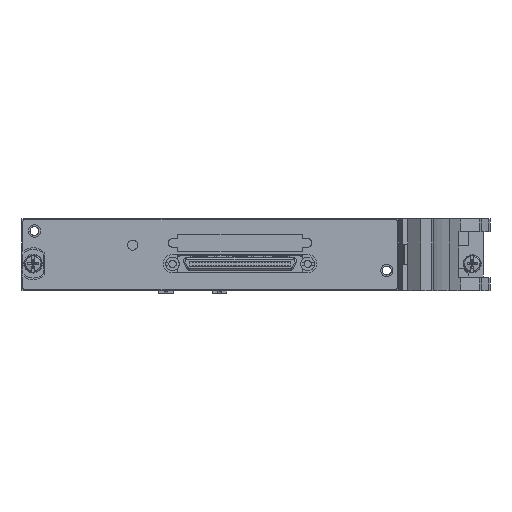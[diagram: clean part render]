
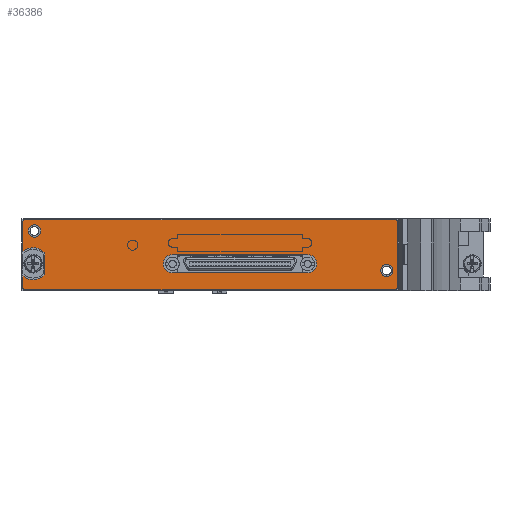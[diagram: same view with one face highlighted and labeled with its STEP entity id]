
A CAD part, left-side view. The second image highlights one B-rep face of the part: STEP entity #36386.
In plain terms, the highlighted planar face has unit normal (-1, 0, 0).
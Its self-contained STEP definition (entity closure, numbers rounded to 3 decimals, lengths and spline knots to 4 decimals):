
#5511=CARTESIAN_POINT('',(-0.215,0.5347,0.665));
#5512=DIRECTION('',(-1.,0.,0.));
#5513=DIRECTION('',(0.,0.,1.));
#5514=AXIS2_PLACEMENT_3D('',#5511,#5512,#5513);
#5516=DIRECTION('',(0.,1.,0.));
#5517=VECTOR('',#5516,4.07);
#5518=CARTESIAN_POINT('',(-0.215,-3.5354,0.685));
#5519=LINE('',#5518,#5517);
#5520=CARTESIAN_POINT('',(-0.215,-3.5354,0.665));
#5521=DIRECTION('',(-1.,0.,0.));
#5522=DIRECTION('',(0.,-1.,0.));
#5523=AXIS2_PLACEMENT_3D('',#5520,#5521,#5522);
#5525=DIRECTION('',(0.,0.,1.));
#5526=VECTOR('',#5525,0.728);
#5527=CARTESIAN_POINT('',(-0.215,-3.5554,-0.063));
#5528=LINE('',#5527,#5526);
#5529=CARTESIAN_POINT('',(-0.215,-3.5354,-0.063));
#5530=DIRECTION('',(-1.,0.,0.));
#5531=DIRECTION('',(0.,0.,-1.));
#5532=AXIS2_PLACEMENT_3D('',#5529,#5530,#5531);
#5534=DIRECTION('',(0.,-1.,0.));
#5535=VECTOR('',#5534,4.07);
#5536=CARTESIAN_POINT('',(-0.215,0.5347,-0.083));
#5537=LINE('',#5536,#5535);
#5538=CARTESIAN_POINT('',(-0.215,0.5347,-0.063));
#5539=DIRECTION('',(-1.,0.,0.));
#5540=DIRECTION('',(0.,1.,0.));
#5541=AXIS2_PLACEMENT_3D('',#5538,#5539,#5540);
#5543=DIRECTION('',(0.,0.,-1.));
#5544=VECTOR('',#5543,0.1295);
#5545=CARTESIAN_POINT('',(-0.215,0.5547,0.0665));
#5546=LINE('',#5545,#5544);
#5547=CARTESIAN_POINT('',(-0.215,0.4427,0.201));
#5548=DIRECTION('',(1.,0.,0.));
#5549=DIRECTION('',(0.,-0.737,-0.676));
#5550=AXIS2_PLACEMENT_3D('',#5547,#5548,#5549);
#5552=DIRECTION('',(0.,0.,-1.));
#5553=VECTOR('',#5552,0.2365);
#5554=CARTESIAN_POINT('',(-0.215,0.3137,0.3193));
#5555=LINE('',#5554,#5553);
#5556=CARTESIAN_POINT('',(-0.215,0.4427,0.201));
#5557=DIRECTION('',(1.,0.,0.));
#5558=DIRECTION('',(0.,0.64,0.768));
#5559=AXIS2_PLACEMENT_3D('',#5556,#5557,#5558);
#5561=DIRECTION('',(0.,0.,-1.));
#5562=VECTOR('',#5561,0.3295);
#5563=CARTESIAN_POINT('',(-0.215,0.5547,0.665));
#5564=LINE('',#5563,#5562);
#5565=CARTESIAN_POINT('',(-0.215,0.4284,0.56));
#5566=DIRECTION('',(-1.,0.,0.));
#5567=DIRECTION('',(0.,0.,1.));
#5568=AXIS2_PLACEMENT_3D('',#5565,#5566,#5567);
#5570=CARTESIAN_POINT('',(-0.215,0.4284,0.56));
#5571=DIRECTION('',(-1.,0.,0.));
#5572=DIRECTION('',(0.,0.,-1.));
#5573=AXIS2_PLACEMENT_3D('',#5570,#5571,#5572);
#5575=CARTESIAN_POINT('',(-0.215,-3.4406,0.126));
#5576=DIRECTION('',(-1.,0.,0.));
#5577=DIRECTION('',(0.,0.,1.));
#5578=AXIS2_PLACEMENT_3D('',#5575,#5576,#5577);
#5580=CARTESIAN_POINT('',(-0.215,-3.4406,0.126));
#5581=DIRECTION('',(-1.,0.,0.));
#5582=DIRECTION('',(0.,0.,-1.));
#5583=AXIS2_PLACEMENT_3D('',#5580,#5581,#5582);
#5585=CARTESIAN_POINT('',(-0.215,-1.0874,0.1998));
#5586=DIRECTION('',(-1.,0.,0.));
#5587=DIRECTION('',(0.,0.,1.));
#5588=AXIS2_PLACEMENT_3D('',#5585,#5586,#5587);
#5590=DIRECTION('',(0.,-1.,0.));
#5591=VECTOR('',#5590,1.484);
#5592=CARTESIAN_POINT('',(-0.215,-1.0874,0.0998));
#5593=LINE('',#5592,#5591);
#5594=CARTESIAN_POINT('',(-0.215,-2.5714,0.1998));
#5595=DIRECTION('',(-1.,0.,0.));
#5596=DIRECTION('',(0.,0.,-1.));
#5597=AXIS2_PLACEMENT_3D('',#5594,#5595,#5596);
#5599=DIRECTION('',(0.,1.,0.));
#5600=VECTOR('',#5599,1.484);
#5601=CARTESIAN_POINT('',(-0.215,-2.5714,0.2998));
#5602=LINE('',#5601,#5600);
#25580=CARTESIAN_POINT('',(-0.215,0.5347,0.685));
#25581=CARTESIAN_POINT('',(-0.215,0.5547,0.665));
#25582=VERTEX_POINT('',#25580);
#25583=VERTEX_POINT('',#25581);
#25584=CARTESIAN_POINT('',(-0.215,0.5547,0.3355));
#25585=VERTEX_POINT('',#25584);
#25586=CARTESIAN_POINT('',(-0.215,0.3137,0.3193));
#25587=VERTEX_POINT('',#25586);
#25588=CARTESIAN_POINT('',(-0.215,0.3137,0.0827));
#25589=VERTEX_POINT('',#25588);
#25590=CARTESIAN_POINT('',(-0.215,0.5547,0.0665));
#25591=VERTEX_POINT('',#25590);
#25592=CARTESIAN_POINT('',(-0.215,0.5547,-0.063));
#25593=VERTEX_POINT('',#25592);
#25594=CARTESIAN_POINT('',(-0.215,0.5347,-0.083));
#25595=VERTEX_POINT('',#25594);
#25596=CARTESIAN_POINT('',(-0.215,-3.5354,-0.083));
#25597=VERTEX_POINT('',#25596);
#25598=CARTESIAN_POINT('',(-0.215,-3.5554,-0.063));
#25599=VERTEX_POINT('',#25598);
#25600=CARTESIAN_POINT('',(-0.215,-3.5554,0.665));
#25601=VERTEX_POINT('',#25600);
#25602=CARTESIAN_POINT('',(-0.215,-3.5354,0.685));
#25603=VERTEX_POINT('',#25602);
#25604=CARTESIAN_POINT('',(-0.215,0.4284,0.6275));
#25605=CARTESIAN_POINT('',(-0.215,0.4284,0.4925));
#25606=VERTEX_POINT('',#25604);
#25607=VERTEX_POINT('',#25605);
#25608=CARTESIAN_POINT('',(-0.215,-3.4406,0.1935));
#25609=CARTESIAN_POINT('',(-0.215,-3.4406,0.0585));
#25610=VERTEX_POINT('',#25608);
#25611=VERTEX_POINT('',#25609);
#25612=CARTESIAN_POINT('',(-0.215,-1.0874,0.2998));
#25613=CARTESIAN_POINT('',(-0.215,-1.0874,0.0998));
#25614=VERTEX_POINT('',#25612);
#25615=VERTEX_POINT('',#25613);
#25616=CARTESIAN_POINT('',(-0.215,-2.5714,0.0998));
#25617=VERTEX_POINT('',#25616);
#25618=CARTESIAN_POINT('',(-0.215,-2.5714,0.2998));
#25619=VERTEX_POINT('',#25618);
#36345=CARTESIAN_POINT('',(-0.215,0.4427,0.201));
#36346=DIRECTION('',(-1.,0.,0.));
#36347=DIRECTION('',(0.,0.,1.));
#36348=AXIS2_PLACEMENT_3D('',#36345,#36346,#36347);
#36349=PLANE('',#36348);
#36350=ORIENTED_EDGE('',*,*,#36185,.F.);
#36351=ORIENTED_EDGE('',*,*,#36200,.F.);
#36352=ORIENTED_EDGE('',*,*,#36214,.F.);
#36353=ORIENTED_EDGE('',*,*,#36228,.F.);
#36354=ORIENTED_EDGE('',*,*,#36242,.F.);
#36355=ORIENTED_EDGE('',*,*,#36256,.F.);
#36356=ORIENTED_EDGE('',*,*,#36270,.F.);
#36357=ORIENTED_EDGE('',*,*,#36284,.F.);
#36358=ORIENTED_EDGE('',*,*,#36298,.F.);
#36359=ORIENTED_EDGE('',*,*,#36312,.F.);
#36360=ORIENTED_EDGE('',*,*,#36326,.F.);
#36361=ORIENTED_EDGE('',*,*,#36339,.F.);
#36362=EDGE_LOOP('',(#36350,#36351,#36352,#36353,#36354,#36355,#36356,#36357,
#36358,#36359,#36360,#36361));
#36363=FACE_OUTER_BOUND('',#36362,.F.);
#36365=ORIENTED_EDGE('',*,*,#36364,.T.);
#36367=ORIENTED_EDGE('',*,*,#36366,.T.);
#36368=EDGE_LOOP('',(#36365,#36367));
#36369=FACE_BOUND('',#36368,.F.);
#36371=ORIENTED_EDGE('',*,*,#36370,.T.);
#36373=ORIENTED_EDGE('',*,*,#36372,.T.);
#36374=EDGE_LOOP('',(#36371,#36373));
#36375=FACE_BOUND('',#36374,.F.);
#36377=ORIENTED_EDGE('',*,*,#36376,.T.);
#36379=ORIENTED_EDGE('',*,*,#36378,.T.);
#36381=ORIENTED_EDGE('',*,*,#36380,.T.);
#36383=ORIENTED_EDGE('',*,*,#36382,.T.);
#36384=EDGE_LOOP('',(#36377,#36379,#36381,#36383));
#36385=FACE_BOUND('',#36384,.F.);
#36386=ADVANCED_FACE('',(#36363,#36369,#36375,#36385),#36349,.T.);
#5515=CIRCLE('',#5514,0.02);
#5524=CIRCLE('',#5523,0.02);
#5533=CIRCLE('',#5532,0.02);
#5542=CIRCLE('',#5541,0.02);
#5551=CIRCLE('',#5550,0.175);
#5560=CIRCLE('',#5559,0.175);
#5569=CIRCLE('',#5568,0.0675);
#5574=CIRCLE('',#5573,0.0675);
#5579=CIRCLE('',#5578,0.0675);
#5584=CIRCLE('',#5583,0.0675);
#5589=CIRCLE('',#5588,0.1);
#5598=CIRCLE('',#5597,0.1);
#36185=EDGE_CURVE('',#25582,#25583,#5515,.T.);
#36200=EDGE_CURVE('',#25603,#25582,#5519,.T.);
#36214=EDGE_CURVE('',#25601,#25603,#5524,.T.);
#36228=EDGE_CURVE('',#25599,#25601,#5528,.T.);
#36242=EDGE_CURVE('',#25597,#25599,#5533,.T.);
#36256=EDGE_CURVE('',#25595,#25597,#5537,.T.);
#36270=EDGE_CURVE('',#25593,#25595,#5542,.T.);
#36284=EDGE_CURVE('',#25591,#25593,#5546,.T.);
#36298=EDGE_CURVE('',#25589,#25591,#5551,.T.);
#36312=EDGE_CURVE('',#25587,#25589,#5555,.T.);
#36326=EDGE_CURVE('',#25585,#25587,#5560,.T.);
#36339=EDGE_CURVE('',#25583,#25585,#5564,.T.);
#36364=EDGE_CURVE('',#25606,#25607,#5569,.T.);
#36366=EDGE_CURVE('',#25607,#25606,#5574,.T.);
#36370=EDGE_CURVE('',#25610,#25611,#5579,.T.);
#36372=EDGE_CURVE('',#25611,#25610,#5584,.T.);
#36376=EDGE_CURVE('',#25614,#25615,#5589,.T.);
#36378=EDGE_CURVE('',#25615,#25617,#5593,.T.);
#36380=EDGE_CURVE('',#25617,#25619,#5598,.T.);
#36382=EDGE_CURVE('',#25619,#25614,#5602,.T.);
